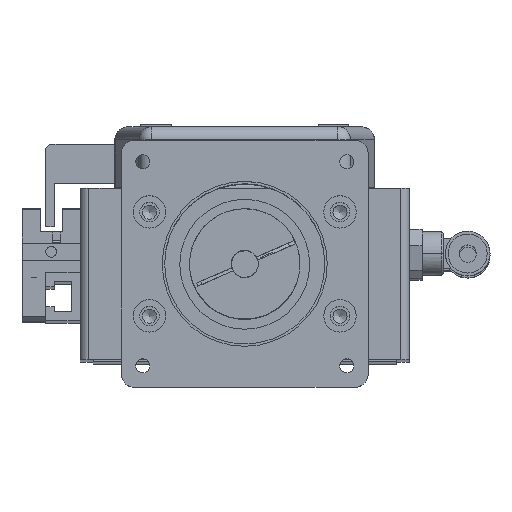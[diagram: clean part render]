
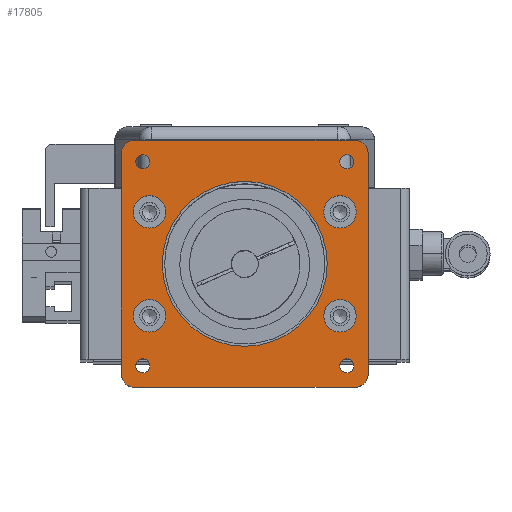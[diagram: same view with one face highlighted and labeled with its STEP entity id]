
A CAD part, top view. The second image highlights one B-rep face of the part: STEP entity #17805.
In plain terms, the highlighted planar face has unit normal (0, 0, 1).
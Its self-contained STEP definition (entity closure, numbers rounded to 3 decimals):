
#16590=CARTESIAN_POINT('',(-25.5,-28.5,12.));
#16591=VERTEX_POINT('',#16590);
#16592=CARTESIAN_POINT('',(-28.5,-25.5,12.));
#16593=VERTEX_POINT('',#16592);
#16594=CARTESIAN_POINT('',(-25.5,-25.5,12.));
#16595=DIRECTION('',(0.0,0.0,-1.));
#16596=DIRECTION('',(-0.707,-0.707,0.0));
#16597=AXIS2_PLACEMENT_3D('',#16594,#16595,#16596);
#16598=CIRCLE('',#16597,3.);
#16599=EDGE_CURVE('',#16591,#16593,#16598,.T.);
#16641=CARTESIAN_POINT('',(25.5,-28.5,12.));
#16642=VERTEX_POINT('',#16641);
#16649=CARTESIAN_POINT('',(25.5,-28.5,12.));
#16650=DIRECTION('',(-1.0,0.0,0.0));
#16651=VECTOR('',#16650,51.);
#16652=LINE('',#16649,#16651);
#16653=EDGE_CURVE('',#16642,#16591,#16652,.T.);
#16726=CARTESIAN_POINT('',(28.5,-25.5,12.));
#16727=VERTEX_POINT('',#16726);
#16728=CARTESIAN_POINT('',(25.5,-25.5,12.));
#16729=DIRECTION('',(0.0,0.0,-1.));
#16730=DIRECTION('',(0.707,-0.707,0.0));
#16731=AXIS2_PLACEMENT_3D('',#16728,#16729,#16730);
#16732=CIRCLE('',#16731,3.);
#16733=EDGE_CURVE('',#16727,#16642,#16732,.T.);
#16769=CARTESIAN_POINT('',(28.5,25.5,12.));
#16770=VERTEX_POINT('',#16769);
#16777=CARTESIAN_POINT('',(28.5,25.5,12.));
#16778=DIRECTION('',(0.0,-1.0,0.0));
#16779=VECTOR('',#16778,51.0);
#16780=LINE('',#16777,#16779);
#16781=EDGE_CURVE('',#16770,#16727,#16780,.T.);
#16791=CARTESIAN_POINT('',(-28.5,25.5,12.));
#16792=VERTEX_POINT('',#16791);
#16793=CARTESIAN_POINT('',(-25.5,28.5,12.));
#16794=VERTEX_POINT('',#16793);
#16795=CARTESIAN_POINT('',(-25.5,25.5,12.));
#16796=DIRECTION('',(0.0,0.0,-1.));
#16797=DIRECTION('',(-0.707,0.707,0.0));
#16798=AXIS2_PLACEMENT_3D('',#16795,#16796,#16797);
#16799=CIRCLE('',#16798,3.);
#16800=EDGE_CURVE('',#16792,#16794,#16799,.T.);
#16826=CARTESIAN_POINT('',(25.5,28.5,12.));
#16827=VERTEX_POINT('',#16826);
#16828=CARTESIAN_POINT('',(-25.5,28.5,12.));
#16829=DIRECTION('',(1.0,0.0,0.0));
#16830=VECTOR('',#16829,51.);
#16831=LINE('',#16828,#16830);
#16832=EDGE_CURVE('',#16794,#16827,#16831,.T.);
#16853=CARTESIAN_POINT('',(25.5,25.5,12.));
#16854=DIRECTION('',(0.0,0.0,-1.0));
#16855=DIRECTION('',(0.707,0.707,0.0));
#16856=AXIS2_PLACEMENT_3D('',#16853,#16854,#16855);
#16857=CIRCLE('',#16856,3.);
#16858=EDGE_CURVE('',#16827,#16770,#16857,.T.);
#17135=CARTESIAN_POINT('',(25.196,-23.575,12.));
#17136=VERTEX_POINT('',#17135);
#17137=CARTESIAN_POINT('',(23.575,-23.575,12.));
#17138=DIRECTION('',(0.0,0.0,-1.0));
#17139=DIRECTION('',(1.0,0.0,0.0));
#17140=AXIS2_PLACEMENT_3D('',#17137,#17138,#17139);
#17141=CIRCLE('',#17140,1.621);
#17142=EDGE_CURVE('',#17136,#17136,#17141,.T.);
#17176=CARTESIAN_POINT('',(-21.954,23.575,12.));
#17177=VERTEX_POINT('',#17176);
#17178=CARTESIAN_POINT('',(-23.575,23.575,12.));
#17179=DIRECTION('',(0.0,0.0,-1.0));
#17180=DIRECTION('',(1.0,0.0,0.0));
#17181=AXIS2_PLACEMENT_3D('',#17178,#17179,#17180);
#17182=CIRCLE('',#17181,1.621);
#17183=EDGE_CURVE('',#17177,#17177,#17182,.T.);
#17217=CARTESIAN_POINT('',(25.196,23.575,12.));
#17218=VERTEX_POINT('',#17217);
#17219=CARTESIAN_POINT('',(23.575,23.575,12.));
#17220=DIRECTION('',(0.0,0.0,-1.0));
#17221=DIRECTION('',(1.0,0.0,0.0));
#17222=AXIS2_PLACEMENT_3D('',#17219,#17220,#17221);
#17223=CIRCLE('',#17222,1.621);
#17224=EDGE_CURVE('',#17218,#17218,#17223,.T.);
#17258=CARTESIAN_POINT('',(-21.954,-23.575,12.));
#17259=VERTEX_POINT('',#17258);
#17260=CARTESIAN_POINT('',(-23.575,-23.575,12.));
#17261=DIRECTION('',(0.0,0.0,-1.0));
#17262=DIRECTION('',(1.0,0.0,0.0));
#17263=AXIS2_PLACEMENT_3D('',#17260,#17261,#17262);
#17264=CIRCLE('',#17263,1.621);
#17265=EDGE_CURVE('',#17259,#17259,#17264,.T.);
#17324=CARTESIAN_POINT('',(25.75,-12.,12.));
#17325=VERTEX_POINT('',#17324);
#17326=CARTESIAN_POINT('',(22.0,-12.,12.));
#17327=DIRECTION('',(0.0,0.0,-1.0));
#17328=DIRECTION('',(1.0,0.0,0.0));
#17329=AXIS2_PLACEMENT_3D('',#17326,#17327,#17328);
#17330=CIRCLE('',#17329,3.75);
#17331=EDGE_CURVE('',#17325,#17325,#17330,.T.);
#17434=CARTESIAN_POINT('',(-18.25,12.,12.));
#17435=VERTEX_POINT('',#17434);
#17436=CARTESIAN_POINT('',(-22.0,12.,12.));
#17437=DIRECTION('',(0.0,0.0,-1.0));
#17438=DIRECTION('',(1.0,0.0,0.0));
#17439=AXIS2_PLACEMENT_3D('',#17436,#17437,#17438);
#17440=CIRCLE('',#17439,3.75);
#17441=EDGE_CURVE('',#17435,#17435,#17440,.T.);
#17544=CARTESIAN_POINT('',(25.75,12.,12.));
#17545=VERTEX_POINT('',#17544);
#17546=CARTESIAN_POINT('',(22.0,12.,12.));
#17547=DIRECTION('',(0.0,0.0,-1.0));
#17548=DIRECTION('',(1.0,0.0,0.0));
#17549=AXIS2_PLACEMENT_3D('',#17546,#17547,#17548);
#17550=CIRCLE('',#17549,3.75);
#17551=EDGE_CURVE('',#17545,#17545,#17550,.T.);
#17654=CARTESIAN_POINT('',(-18.25,-12.,12.));
#17655=VERTEX_POINT('',#17654);
#17656=CARTESIAN_POINT('',(-22.,-12.,12.));
#17657=DIRECTION('',(0.0,0.0,-1.0));
#17658=DIRECTION('',(1.0,0.0,0.0));
#17659=AXIS2_PLACEMENT_3D('',#17656,#17657,#17658);
#17660=CIRCLE('',#17659,3.75);
#17661=EDGE_CURVE('',#17655,#17655,#17660,.T.);
#17726=CARTESIAN_POINT('',(19.05,0.,12.));
#17727=VERTEX_POINT('',#17726);
#17728=CARTESIAN_POINT('',(0.0,0.0,12.));
#17729=DIRECTION('',(0.0,0.0,-1.0));
#17730=DIRECTION('',(-1.0,0.0,0.0));
#17731=AXIS2_PLACEMENT_3D('',#17728,#17729,#17730);
#17732=CIRCLE('',#17731,19.05);
#17733=EDGE_CURVE('',#17727,#17727,#17732,.T.);
#17758=CARTESIAN_POINT('',(0.0,0.,12.));
#17759=DIRECTION('',(0.0,0.0,1.0));
#17760=DIRECTION('',(1.0,0.0,0.0));
#17761=AXIS2_PLACEMENT_3D('',#17758,#17759,#17760);
#17762=PLANE('',#17761);
#17763=ORIENTED_EDGE('',*,*,#16599,.F.);
#17764=ORIENTED_EDGE('',*,*,#16653,.F.);
#17765=ORIENTED_EDGE('',*,*,#16733,.F.);
#17766=ORIENTED_EDGE('',*,*,#16781,.F.);
#17767=ORIENTED_EDGE('',*,*,#16858,.F.);
#17768=ORIENTED_EDGE('',*,*,#16832,.F.);
#17769=ORIENTED_EDGE('',*,*,#16800,.F.);
#17770=CARTESIAN_POINT('',(-28.5,-25.5,12.));
#17771=DIRECTION('',(0.0,1.0,0.0));
#17772=VECTOR('',#17771,51.0);
#17773=LINE('',#17770,#17772);
#17774=EDGE_CURVE('',#16593,#16792,#17773,.T.);
#17775=ORIENTED_EDGE('',*,*,#17774,.F.);
#17776=EDGE_LOOP('',(#17763,#17764,#17765,#17766,#17767,#17768,#17769,#17775));
#17777=FACE_OUTER_BOUND('',#17776,.T.);
#17778=ORIENTED_EDGE('',*,*,#17142,.T.);
#17779=EDGE_LOOP('',(#17778));
#17780=FACE_BOUND('',#17779,.T.);
#17781=ORIENTED_EDGE('',*,*,#17183,.T.);
#17782=EDGE_LOOP('',(#17781));
#17783=FACE_BOUND('',#17782,.T.);
#17784=ORIENTED_EDGE('',*,*,#17224,.T.);
#17785=EDGE_LOOP('',(#17784));
#17786=FACE_BOUND('',#17785,.T.);
#17787=ORIENTED_EDGE('',*,*,#17265,.T.);
#17788=EDGE_LOOP('',(#17787));
#17789=FACE_BOUND('',#17788,.T.);
#17790=ORIENTED_EDGE('',*,*,#17331,.T.);
#17791=EDGE_LOOP('',(#17790));
#17792=FACE_BOUND('',#17791,.T.);
#17793=ORIENTED_EDGE('',*,*,#17441,.T.);
#17794=EDGE_LOOP('',(#17793));
#17795=FACE_BOUND('',#17794,.T.);
#17796=ORIENTED_EDGE('',*,*,#17551,.T.);
#17797=EDGE_LOOP('',(#17796));
#17798=FACE_BOUND('',#17797,.T.);
#17799=ORIENTED_EDGE('',*,*,#17661,.T.);
#17800=EDGE_LOOP('',(#17799));
#17801=FACE_BOUND('',#17800,.T.);
#17802=ORIENTED_EDGE('',*,*,#17733,.T.);
#17803=EDGE_LOOP('',(#17802));
#17804=FACE_BOUND('',#17803,.T.);
#17805=ADVANCED_FACE('',(#17777,#17780,#17783,#17786,#17789,#17792,#17795,#17798,#17801,#17804),#17762,.T.);
